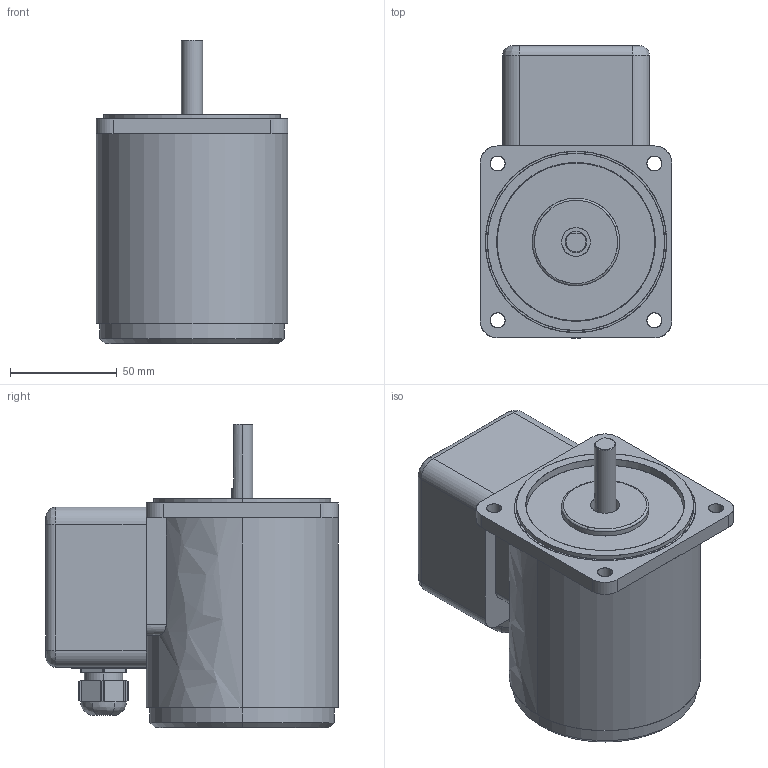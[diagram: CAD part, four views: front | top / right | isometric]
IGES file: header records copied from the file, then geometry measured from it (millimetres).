
Start section: SolidWorks IGES file using analytic representation for surfaces
Bounding box: 90 x 137 x 142.5 mm (x, y, z)
Surface area: 115782.2 mm2 (no closed solid volume)
Topology: 0 solids, 0 shells, 200 faces, 3538 edges, 3538 vertices
Faces by surface type: bspline 115, revolution 85
